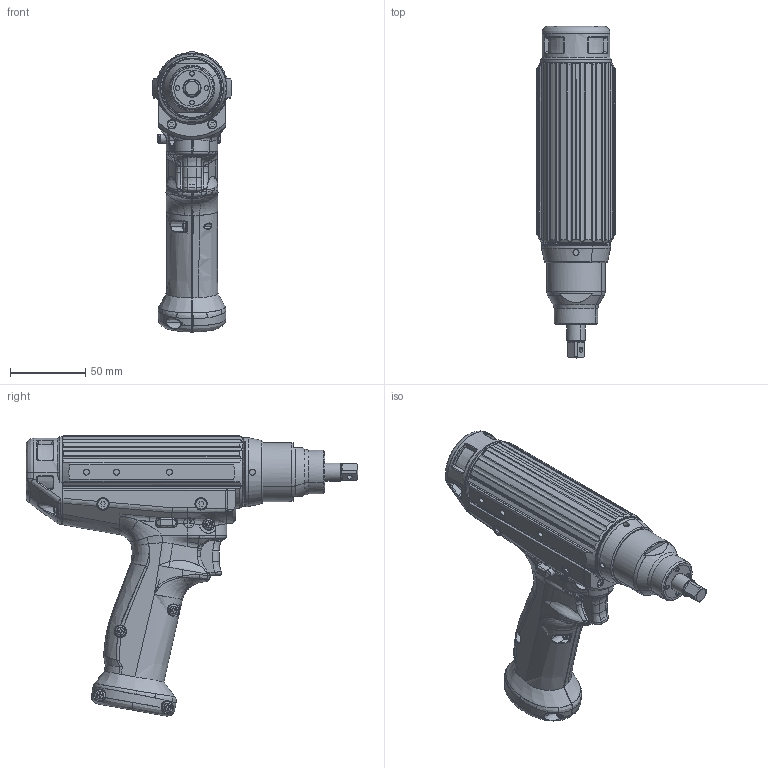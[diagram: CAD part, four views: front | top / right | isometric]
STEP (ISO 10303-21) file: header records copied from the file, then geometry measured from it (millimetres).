
FILE_DESCRIPTION(('STEP AP203'),'2;1');
FILE_NAME('EH2-R1020-P.stp','2009-03-18T08:54:21',(''),(''),'2008.1.107','THINKDESIGN','');
FILE_SCHEMA(('CONFIG_CONTROL_DESIGN'));
Bounding box: 52 x 220 x 185.7 mm (x, y, z)
Surface area: 94115.8 mm2 (no closed solid volume)
Topology: 0 solids, 0 shells, 1381 faces, 8773 edges, 8647 vertices
Faces by surface type: bspline 1069, plane 312
Entity records: 110217 total; most frequent: CARTESIAN_POINT 84660, COMPOSITE_CURVE_SEGMENT 8642, B_SPLINE_CURVE_WITH_KNOTS 4849, DIRECTION 2348, VECTOR 1726, LINE 1726, TRIMMED_CURVE 1726, OUTER_BOUNDARY_CURVE 1376
